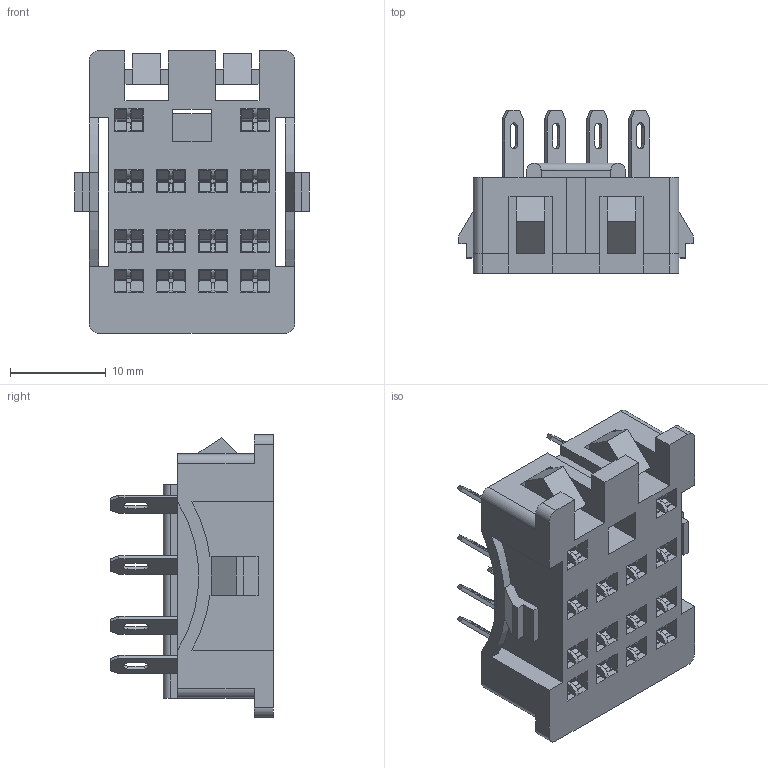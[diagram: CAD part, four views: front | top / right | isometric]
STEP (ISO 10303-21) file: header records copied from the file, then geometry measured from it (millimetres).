
FILE_DESCRIPTION(/* description */ (''),/* implementation_level */ '2;1');
FILE_NAME(/* name */ 'C:\Desktop\3D 94.24\94.24.stp',/* time_stamp */ '2016-03-09T15:02:46+01:00',/* author */ ('marco'),/* organization */ (''),/* preprocessor_version */ 'ST-DEVELOPER v16.1',/* originating_system */ 'Autodesk Inventor 2016',/* authorisation */ '');
FILE_SCHEMA (('AUTOMOTIVE_DESIGN { 1 0 10303 214 3 1 1 }'));
Length unit declared in the file: centimetre
Products named in the file (1): 94.24
Bounding box: 24.5 x 17 x 29.5 mm (x, y, z)
Volume: 4250.4 mm3; surface area: 6554.5 mm2
Topology: 1 solids, 1 shells, 1453 faces, 4562 edges, 2963 vertices
Faces by surface type: plane 1155, cylinder 298
Entity records: 50711 total; most frequent: ORIENTED_EDGE 9124, CARTESIAN_POINT 8979, DIRECTION 8069, EDGE_CURVE 4562, LINE 3963, VECTOR 3963, VERTEX_POINT 2963, AXIS2_PLACEMENT_3D 2053
